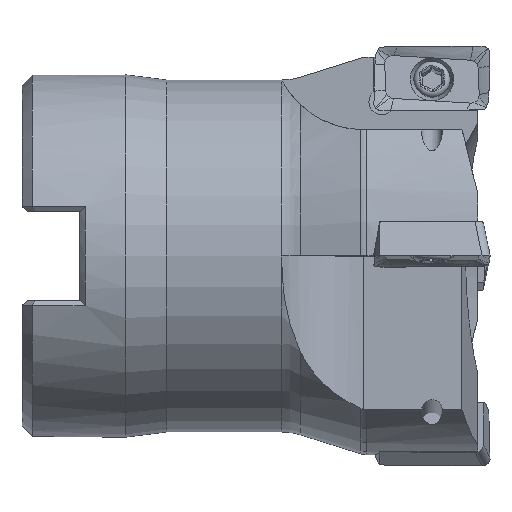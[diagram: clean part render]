
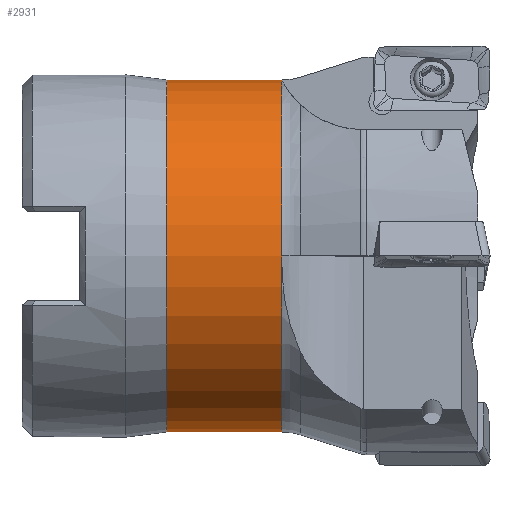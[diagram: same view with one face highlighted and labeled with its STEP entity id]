
A CAD part, front view. The second image highlights one B-rep face of the part: STEP entity #2931.
In plain terms, the highlighted cylindrical face has radius 17 mm (diameter 34 mm), a full revolution.
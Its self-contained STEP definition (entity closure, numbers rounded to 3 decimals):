
#383=LINE('',#5259,#556);
#556=VECTOR('',#3928,17.);
#637=CYLINDRICAL_SURFACE('',#3279,17.);
#746=FACE_OUTER_BOUND('',#915,.T.);
#915=EDGE_LOOP('',(#2445,#2446,#2447,#2448,#2449,#2450,#2451));
#1047=CIRCLE('',#3256,17.);
#1048=CIRCLE('',#3258,17.);
#1049=CIRCLE('',#3260,17.);
#1054=CIRCLE('',#3278,17.);
#1055=CIRCLE('',#3280,17.);
#1277=VERTEX_POINT('',#4899);
#1291=VERTEX_POINT('',#4938);
#1304=VERTEX_POINT('',#4979);
#1313=VERTEX_POINT('',#5004);
#1342=VERTEX_POINT('',#5255);
#1714=EDGE_CURVE('',#1304,#1313,#1047,.T.);
#1716=EDGE_CURVE('',#1313,#1277,#1048,.T.);
#1717=EDGE_CURVE('',#1277,#1291,#1049,.T.);
#1727=EDGE_CURVE('',#1342,#1342,#1054,.T.);
#1729=EDGE_CURVE('',#1304,#1342,#383,.T.);
#1730=EDGE_CURVE('',#1291,#1304,#1055,.T.);
#2445=ORIENTED_EDGE('',*,*,#1716,.F.);
#2446=ORIENTED_EDGE('',*,*,#1714,.F.);
#2447=ORIENTED_EDGE('',*,*,#1729,.T.);
#2448=ORIENTED_EDGE('',*,*,#1727,.T.);
#2449=ORIENTED_EDGE('',*,*,#1729,.F.);
#2450=ORIENTED_EDGE('',*,*,#1730,.F.);
#2451=ORIENTED_EDGE('',*,*,#1717,.F.);
#2931=ADVANCED_FACE('',(#746),#637,.T.);
#3256=AXIS2_PLACEMENT_3D('',#5214,#3874,#3875);
#3258=AXIS2_PLACEMENT_3D('',#5226,#3878,#3879);
#3260=AXIS2_PLACEMENT_3D('',#5228,#3882,#3883);
#3278=AXIS2_PLACEMENT_3D('',#5256,#3923,#3924);
#3279=AXIS2_PLACEMENT_3D('',#5258,#3926,#3927);
#3280=AXIS2_PLACEMENT_3D('',#5260,#3929,#3930);
#3874=DIRECTION('center_axis',(1.,0.,0.));
#3875=DIRECTION('ref_axis',(0.,0.,-1.));
#3878=DIRECTION('center_axis',(1.,0.,0.));
#3879=DIRECTION('ref_axis',(0.,0.,-1.));
#3882=DIRECTION('center_axis',(1.,0.,0.));
#3883=DIRECTION('ref_axis',(0.,0.,-1.));
#3923=DIRECTION('center_axis',(1.,0.,0.));
#3924=DIRECTION('ref_axis',(0.,0.,-1.));
#3926=DIRECTION('center_axis',(1.,0.,0.));
#3927=DIRECTION('ref_axis',(0.,1.,0.));
#3928=DIRECTION('',(-1.,0.,0.));
#3929=DIRECTION('center_axis',(1.,0.,0.));
#3930=DIRECTION('ref_axis',(0.,0.,-1.));
#4899=CARTESIAN_POINT('',(-4.921,17.,0.));
#4938=CARTESIAN_POINT('',(-4.921,0.,17.));
#4979=CARTESIAN_POINT('',(-4.921,-17.,0.));
#5004=CARTESIAN_POINT('',(-4.921,0.,-17.));
#5214=CARTESIAN_POINT('Origin',(-4.921,0.,0.));
#5226=CARTESIAN_POINT('Origin',(-4.921,0.,0.));
#5228=CARTESIAN_POINT('Origin',(-4.921,0.,0.));
#5255=CARTESIAN_POINT('',(-16.,-17.,0.));
#5256=CARTESIAN_POINT('Origin',(-16.,0.,0.));
#5258=CARTESIAN_POINT('Origin',(-10.46,0.,0.));
#5259=CARTESIAN_POINT('',(-10.46,-17.,0.));
#5260=CARTESIAN_POINT('Origin',(-4.921,0.,0.));
